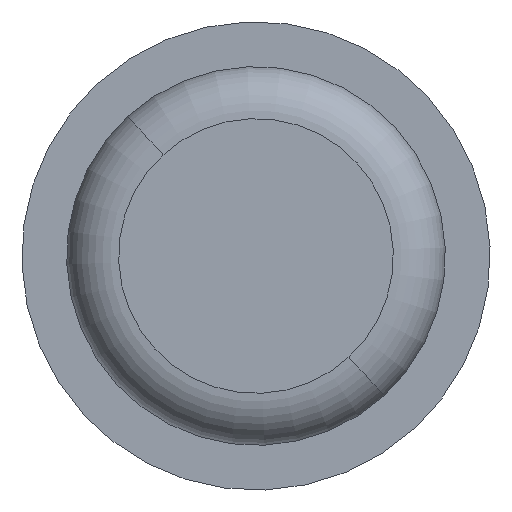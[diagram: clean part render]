
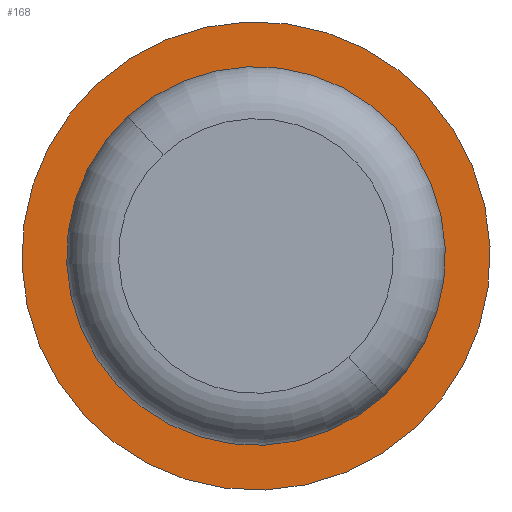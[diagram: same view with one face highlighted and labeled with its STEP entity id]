
A CAD part, left-side view. The second image highlights one B-rep face of the part: STEP entity #168.
In plain terms, the highlighted planar face has unit normal (-1, 0, 0) as drawn and (0, -1, 0) by its records, which use the part's own axes.
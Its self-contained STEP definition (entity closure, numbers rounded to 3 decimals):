
#54 = DIRECTION ( 'NONE',  ( 0., 0., 1. ) ) ;
#66 = CARTESIAN_POINT ( 'NONE',  ( 0., 0., 0. ) ) ;
#128 = ORIENTED_EDGE ( 'NONE', *, *, #1209, .F. ) ;
#130 = EDGE_CURVE ( 'NONE', #3381, #580, #1628, .T. ) ;
#168 = ADVANCED_FACE ( 'NONE', ( #3095, #2236 ), #1215, .F. ) ;
#392 = DIRECTION ( 'NONE',  ( 0., 1., 0. ) ) ;
#580 = VERTEX_POINT ( 'NONE', #834 ) ;
#675 = AXIS2_PLACEMENT_3D ( 'NONE', #2029, #2004, #1340 ) ;
#834 = CARTESIAN_POINT ( 'NONE',  ( 0., 0., -4.25 ) ) ;
#1029 = ORIENTED_EDGE ( 'NONE', *, *, #2587, .F. ) ;
#1156 = CARTESIAN_POINT ( 'NONE',  ( 0., 0., 4.25 ) ) ;
#1209 = EDGE_CURVE ( 'NONE', #1928, #3428, #3395, .T. ) ;
#1215 = PLANE ( 'NONE',  #2453 ) ;
#1340 = DIRECTION ( 'NONE',  ( 0., 0., 1. ) ) ;
#1492 = AXIS2_PLACEMENT_3D ( 'NONE', #3709, #2119, #4060 ) ;
#1502 = CIRCLE ( 'NONE', #1492, 9. ) ;
#1628 = CIRCLE ( 'NONE', #4158, 4.25 ) ;
#1723 = EDGE_CURVE ( 'NONE', #580, #3381, #2402, .T. ) ;
#1887 = DIRECTION ( 'NONE',  ( 0., 0., 1. ) ) ;
#1928 = VERTEX_POINT ( 'NONE', #3542 ) ;
#2004 = DIRECTION ( 'NONE',  ( 0., 1., 0. ) ) ;
#2029 = CARTESIAN_POINT ( 'NONE',  ( 0., 0., 0. ) ) ;
#2119 = DIRECTION ( 'NONE',  ( 0., 1., 0. ) ) ;
#2172 = CARTESIAN_POINT ( 'NONE',  ( 0., 0., 0. ) ) ;
#2236 = FACE_BOUND ( 'NONE', #3152, .T. ) ;
#2402 = CIRCLE ( 'NONE', #2921, 4.25 ) ;
#2453 = AXIS2_PLACEMENT_3D ( 'NONE', #2172, #3808, #1887 ) ;
#2532 = CARTESIAN_POINT ( 'NONE',  ( 0., 0., 0. ) ) ;
#2587 = EDGE_CURVE ( 'NONE', #3428, #1928, #1502, .T. ) ;
#2756 = CARTESIAN_POINT ( 'NONE',  ( 0., 0., -9. ) ) ;
#2921 = AXIS2_PLACEMENT_3D ( 'NONE', #66, #392, #54 ) ;
#3053 = ORIENTED_EDGE ( 'NONE', *, *, #130, .T. ) ;
#3095 = FACE_OUTER_BOUND ( 'NONE', #3676, .T. ) ;
#3105 = ORIENTED_EDGE ( 'NONE', *, *, #1723, .T. ) ;
#3152 = EDGE_LOOP ( 'NONE', ( #3105, #3053 ) ) ;
#3381 = VERTEX_POINT ( 'NONE', #1156 ) ;
#3395 = CIRCLE ( 'NONE', #675, 9. ) ;
#3428 = VERTEX_POINT ( 'NONE', #2756 ) ;
#3494 = DIRECTION ( 'NONE',  ( 0., 1., 0. ) ) ;
#3542 = CARTESIAN_POINT ( 'NONE',  ( 0., 0., 9. ) ) ;
#3676 = EDGE_LOOP ( 'NONE', ( #1029, #128 ) ) ;
#3709 = CARTESIAN_POINT ( 'NONE',  ( 0., 0., 0. ) ) ;
#3808 = DIRECTION ( 'NONE',  ( 0., 1., 0. ) ) ;
#4060 = DIRECTION ( 'NONE',  ( 0., 0., 1. ) ) ;
#4102 = DIRECTION ( 'NONE',  ( 0., 0., 1. ) ) ;
#4158 = AXIS2_PLACEMENT_3D ( 'NONE', #2532, #3494, #4102 ) ;
